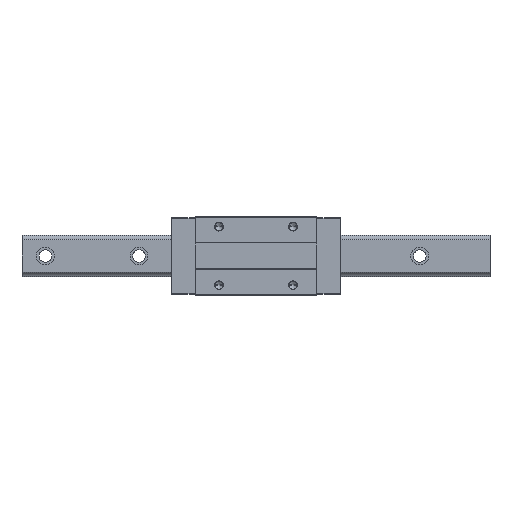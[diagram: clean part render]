
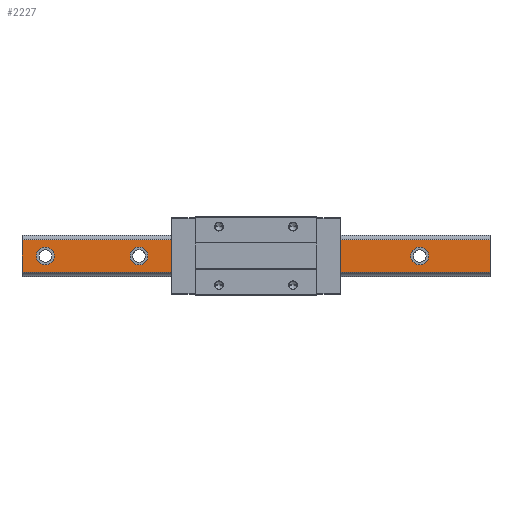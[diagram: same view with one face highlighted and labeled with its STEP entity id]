
A CAD part, top view. The second image highlights one B-rep face of the part: STEP entity #2227.
In plain terms, the highlighted planar face has unit normal (0, 0, 1).
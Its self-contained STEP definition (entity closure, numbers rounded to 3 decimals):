
#26 = ORIENTED_EDGE ( 'NONE', *, *, #4584, .F. ) ;
#77 = AXIS2_PLACEMENT_3D ( 'NONE', #5128, #1441, #2699 ) ;
#137 = EDGE_CURVE ( 'NONE', #4817, #5270, #3489, .T. ) ;
#318 = VERTEX_POINT ( 'NONE', #4420 ) ;
#347 = CIRCLE ( 'NONE', #1501, 11.5 ) ;
#370 = VERTEX_POINT ( 'NONE', #4552 ) ;
#400 = AXIS2_PLACEMENT_3D ( 'NONE', #3026, #1416, #4711 ) ;
#415 = CARTESIAN_POINT ( 'NONE',  ( -30., 0., 44. ) ) ;
#424 = VECTOR ( 'NONE', #446, 1000. ) ;
#446 = DIRECTION ( 'NONE',  ( -1., 0., 0. ) ) ;
#447 = VERTEX_POINT ( 'NONE', #1288 ) ;
#492 = AXIS2_PLACEMENT_3D ( 'NONE', #1835, #954, #2663 ) ;
#532 = ORIENTED_EDGE ( 'NONE', *, *, #4991, .F. ) ;
#548 = CARTESIAN_POINT ( 'NONE',  ( -258.5, 0., 44. ) ) ;
#600 = CIRCLE ( 'NONE', #3603, 11.5 ) ;
#610 = AXIS2_PLACEMENT_3D ( 'NONE', #415, #859, #780 ) ;
#680 = CARTESIAN_POINT ( 'NONE',  ( -300., -20.894, 44. ) ) ;
#684 = VECTOR ( 'NONE', #1433, 1000. ) ;
#742 = CIRCLE ( 'NONE', #824, 11.5 ) ;
#760 = EDGE_CURVE ( 'NONE', #1159, #4636, #600, .T. ) ;
#780 = DIRECTION ( 'NONE',  ( 1., 0., 0. ) ) ;
#814 = VERTEX_POINT ( 'NONE', #1088 ) ;
#824 = AXIS2_PLACEMENT_3D ( 'NONE', #3735, #3795, #5423 ) ;
#859 = DIRECTION ( 'NONE',  ( 0., 0., 1. ) ) ;
#903 = DIRECTION ( 'NONE',  ( 0., -1., 0. ) ) ;
#918 = CARTESIAN_POINT ( 'NONE',  ( -270., 0., 44. ) ) ;
#949 = ORIENTED_EDGE ( 'NONE', *, *, #3177, .F. ) ;
#954 = DIRECTION ( 'NONE',  ( 0., 0., 1. ) ) ;
#959 = CARTESIAN_POINT ( 'NONE',  ( 210., 0., 44. ) ) ;
#1088 = CARTESIAN_POINT ( 'NONE',  ( 300., 20.894, 44. ) ) ;
#1159 = VERTEX_POINT ( 'NONE', #548 ) ;
#1201 = EDGE_LOOP ( 'NONE', ( #4837, #532 ) ) ;
#1288 = CARTESIAN_POINT ( 'NONE',  ( 221.5, 0., 44. ) ) ;
#1326 = PLANE ( 'NONE',  #3405 ) ;
#1416 = DIRECTION ( 'NONE',  ( 0., 0., 1. ) ) ;
#1433 = DIRECTION ( 'NONE',  ( 0., -1., 0. ) ) ;
#1441 = DIRECTION ( 'NONE',  ( 0., 0., 1. ) ) ;
#1501 = AXIS2_PLACEMENT_3D ( 'NONE', #5391, #2491, #4950 ) ;
#1553 = CIRCLE ( 'NONE', #4536, 11.5 ) ;
#1598 = EDGE_LOOP ( 'NONE', ( #3193, #3881 ) ) ;
#1688 = VERTEX_POINT ( 'NONE', #3633 ) ;
#1704 = DIRECTION ( 'NONE',  ( 1., 0., 0. ) ) ;
#1772 = ORIENTED_EDGE ( 'NONE', *, *, #4212, .T. ) ;
#1789 = DIRECTION ( 'NONE',  ( 0., 0., 1. ) ) ;
#1793 = VERTEX_POINT ( 'NONE', #3555 ) ;
#1796 = DIRECTION ( 'NONE',  ( 0., 0., 1. ) ) ;
#1835 = CARTESIAN_POINT ( 'NONE',  ( 90., 0., 44. ) ) ;
#1872 = CARTESIAN_POINT ( 'NONE',  ( -161.5, 0., 44. ) ) ;
#1958 = ORIENTED_EDGE ( 'NONE', *, *, #4979, .F. ) ;
#1992 = EDGE_CURVE ( 'NONE', #814, #4247, #3599, .T. ) ;
#2052 = ORIENTED_EDGE ( 'NONE', *, *, #760, .F. ) ;
#2091 = CARTESIAN_POINT ( 'NONE',  ( 300., 20.894, 44. ) ) ;
#2145 = LINE ( 'NONE', #3113, #2974 ) ;
#2190 = FACE_BOUND ( 'NONE', #2863, .T. ) ;
#2202 = EDGE_CURVE ( 'NONE', #4360, #318, #2430, .T. ) ;
#2227 = ADVANCED_FACE ( 'NONE', ( #3103, #4341, #4785, #5090, #2190, #3407 ), #1326, .F. ) ;
#2356 = CARTESIAN_POINT ( 'NONE',  ( 300., -20.894, 44. ) ) ;
#2423 = ORIENTED_EDGE ( 'NONE', *, *, #137, .T. ) ;
#2430 = CIRCLE ( 'NONE', #492, 11.5 ) ;
#2481 = EDGE_CURVE ( 'NONE', #318, #4360, #1553, .T. ) ;
#2491 = DIRECTION ( 'NONE',  ( 0., 0., 1. ) ) ;
#2663 = DIRECTION ( 'NONE',  ( 1., 0., 0. ) ) ;
#2699 = DIRECTION ( 'NONE',  ( 1., 0., 0. ) ) ;
#2794 = EDGE_CURVE ( 'NONE', #1793, #370, #4929, .T. ) ;
#2851 = CIRCLE ( 'NONE', #4258, 11.5 ) ;
#2861 = EDGE_LOOP ( 'NONE', ( #2423, #1958, #4090, #1772 ) ) ;
#2863 = EDGE_LOOP ( 'NONE', ( #2052, #949 ) ) ;
#2974 = VECTOR ( 'NONE', #4742, 1000. ) ;
#2993 = CARTESIAN_POINT ( 'NONE',  ( 300., -20.894, 44. ) ) ;
#3026 = CARTESIAN_POINT ( 'NONE',  ( -150., 0., 44. ) ) ;
#3077 = CARTESIAN_POINT ( 'NONE',  ( -300., -20.894, 44. ) ) ;
#3103 = FACE_BOUND ( 'NONE', #1201, .T. ) ;
#3113 = CARTESIAN_POINT ( 'NONE',  ( 300., -20.894, 44. ) ) ;
#3138 = CARTESIAN_POINT ( 'NONE',  ( -138.5, 0., 44. ) ) ;
#3145 = ORIENTED_EDGE ( 'NONE', *, *, #2481, .F. ) ;
#3177 = EDGE_CURVE ( 'NONE', #4636, #1159, #4269, .T. ) ;
#3190 = EDGE_CURVE ( 'NONE', #4412, #4307, #4452, .T. ) ;
#3193 = ORIENTED_EDGE ( 'NONE', *, *, #2794, .F. ) ;
#3274 = EDGE_LOOP ( 'NONE', ( #3145, #4848 ) ) ;
#3328 = VECTOR ( 'NONE', #5286, 1000. ) ;
#3405 = AXIS2_PLACEMENT_3D ( 'NONE', #2993, #3488, #903 ) ;
#3407 = FACE_OUTER_BOUND ( 'NONE', #2861, .T. ) ;
#3488 = DIRECTION ( 'NONE',  ( 0., 0., -1. ) ) ;
#3489 = LINE ( 'NONE', #3077, #684 ) ;
#3555 = CARTESIAN_POINT ( 'NONE',  ( -18.5, 0., 44. ) ) ;
#3571 = EDGE_CURVE ( 'NONE', #370, #1793, #742, .T. ) ;
#3599 = LINE ( 'NONE', #2356, #3328 ) ;
#3603 = AXIS2_PLACEMENT_3D ( 'NONE', #918, #1796, #4268 ) ;
#3633 = CARTESIAN_POINT ( 'NONE',  ( 198.5, 0., 44. ) ) ;
#3735 = CARTESIAN_POINT ( 'NONE',  ( -30., 0., 44. ) ) ;
#3785 = CARTESIAN_POINT ( 'NONE',  ( 90., 0., 44. ) ) ;
#3795 = DIRECTION ( 'NONE',  ( 0., 0., 1. ) ) ;
#3881 = ORIENTED_EDGE ( 'NONE', *, *, #3571, .F. ) ;
#3919 = CARTESIAN_POINT ( 'NONE',  ( -300., 20.894, 44. ) ) ;
#3924 = DIRECTION ( 'NONE',  ( 0., 0., 1. ) ) ;
#3991 = EDGE_CURVE ( 'NONE', #447, #1688, #2851, .T. ) ;
#4021 = CIRCLE ( 'NONE', #77, 11.5 ) ;
#4032 = EDGE_LOOP ( 'NONE', ( #26, #5065 ) ) ;
#4041 = CARTESIAN_POINT ( 'NONE',  ( 78.5, 0., 44. ) ) ;
#4090 = ORIENTED_EDGE ( 'NONE', *, *, #1992, .F. ) ;
#4138 = DIRECTION ( 'NONE',  ( 0., 0., 1. ) ) ;
#4212 = EDGE_CURVE ( 'NONE', #814, #4817, #4993, .T. ) ;
#4247 = VERTEX_POINT ( 'NONE', #5108 ) ;
#4258 = AXIS2_PLACEMENT_3D ( 'NONE', #959, #3924, #1704 ) ;
#4268 = DIRECTION ( 'NONE',  ( 1., 0., 0. ) ) ;
#4269 = CIRCLE ( 'NONE', #5422, 11.5 ) ;
#4292 = CARTESIAN_POINT ( 'NONE',  ( -270., 0., 44. ) ) ;
#4307 = VERTEX_POINT ( 'NONE', #3138 ) ;
#4341 = FACE_BOUND ( 'NONE', #3274, .T. ) ;
#4360 = VERTEX_POINT ( 'NONE', #4041 ) ;
#4412 = VERTEX_POINT ( 'NONE', #1872 ) ;
#4420 = CARTESIAN_POINT ( 'NONE',  ( 101.5, 0., 44. ) ) ;
#4452 = CIRCLE ( 'NONE', #400, 11.5 ) ;
#4536 = AXIS2_PLACEMENT_3D ( 'NONE', #3785, #4138, #5387 ) ;
#4552 = CARTESIAN_POINT ( 'NONE',  ( -41.5, 0., 44. ) ) ;
#4584 = EDGE_CURVE ( 'NONE', #4307, #4412, #347, .T. ) ;
#4636 = VERTEX_POINT ( 'NONE', #5118 ) ;
#4711 = DIRECTION ( 'NONE',  ( 1., 0., 0. ) ) ;
#4742 = DIRECTION ( 'NONE',  ( -1., 0., 0. ) ) ;
#4771 = DIRECTION ( 'NONE',  ( 1., 0., 0. ) ) ;
#4785 = FACE_BOUND ( 'NONE', #1598, .T. ) ;
#4817 = VERTEX_POINT ( 'NONE', #3919 ) ;
#4837 = ORIENTED_EDGE ( 'NONE', *, *, #3991, .F. ) ;
#4848 = ORIENTED_EDGE ( 'NONE', *, *, #2202, .F. ) ;
#4929 = CIRCLE ( 'NONE', #610, 11.5 ) ;
#4950 = DIRECTION ( 'NONE',  ( 1., 0., 0. ) ) ;
#4979 = EDGE_CURVE ( 'NONE', #4247, #5270, #2145, .T. ) ;
#4991 = EDGE_CURVE ( 'NONE', #1688, #447, #4021, .T. ) ;
#4993 = LINE ( 'NONE', #2091, #424 ) ;
#5065 = ORIENTED_EDGE ( 'NONE', *, *, #3190, .F. ) ;
#5090 = FACE_BOUND ( 'NONE', #4032, .T. ) ;
#5108 = CARTESIAN_POINT ( 'NONE',  ( 300., -20.894, 44. ) ) ;
#5118 = CARTESIAN_POINT ( 'NONE',  ( -281.5, 0., 44. ) ) ;
#5128 = CARTESIAN_POINT ( 'NONE',  ( 210., 0., 44. ) ) ;
#5270 = VERTEX_POINT ( 'NONE', #680 ) ;
#5286 = DIRECTION ( 'NONE',  ( 0., -1., 0. ) ) ;
#5387 = DIRECTION ( 'NONE',  ( 1., 0., 0. ) ) ;
#5391 = CARTESIAN_POINT ( 'NONE',  ( -150., 0., 44. ) ) ;
#5422 = AXIS2_PLACEMENT_3D ( 'NONE', #4292, #1789, #4771 ) ;
#5423 = DIRECTION ( 'NONE',  ( 1., 0., 0. ) ) ;
